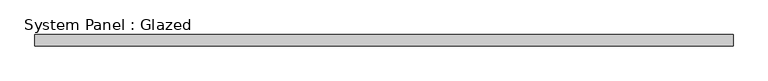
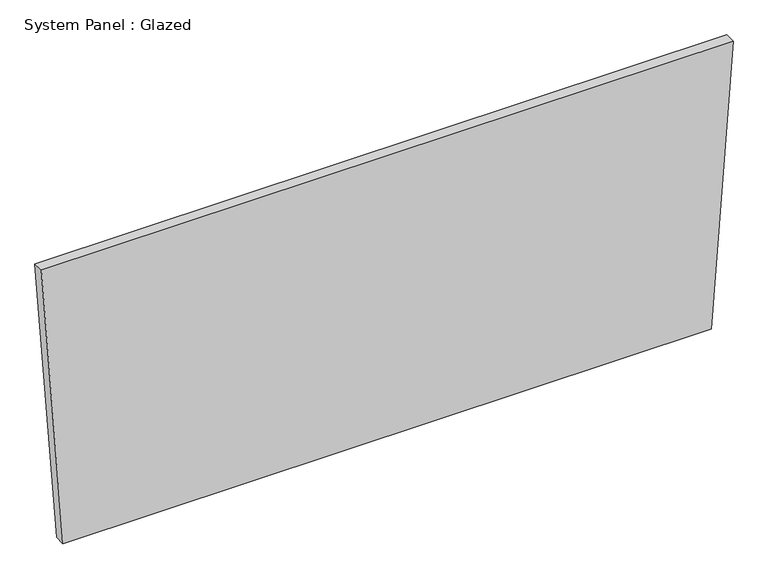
"""IFC4 building model written with IfcOpenShell, lengths in millimetres: plate geometry, System Panel : Glazed."""

from ifc_helpers import new_model, si_unit, frame, origin, place, context, project, spatial, polyline, outline, extrude, source, transform, mapped, element, save


def system_panel_glazed_bf9ad2f0(model_context):
    return source(origin(), model_context, "Body", "SweptSolid", [
        extrude(outline(polyline([(0.0006173, -744.9172912), (0.0, 744.9172942), (682.4582085, 794.6455997), (682.4588669, -794.6455997), (0.0006173, -744.9172912)])), frame((0.0, 19.05, 0.0), z_axis=(0.0, 1.0, 0.0), x_axis=(0.0, 0.0, 1.0)), (0.0, 0.0, 1.0), 25.4),
    ])


if __name__ == "__main__":
    model = new_model("IFC4")
    model_context = context("Model", 3, world=origin())
    ifc_project = project(units=[si_unit("LENGTHUNIT", "METRE", prefix="MILLI")], contexts=[model_context])
    site = spatial("IfcSite", under=ifc_project)
    building = spatial("IfcBuilding", under=site)
    placement = place(None, origin())
    system_panel_glazed_shape = system_panel_glazed_bf9ad2f0(model_context)
    element("IfcPlate", 1, ObjectType="System Panel : Glazed", at=placement, inside=building, context=model_context, shape_type="MappedRepresentation", body=[
        mapped(system_panel_glazed_shape, transform((0.0, 0.0, 0.0), x_axis=(1.0, 0.0, 0.0), y_axis=(0.0, 1.0, 0.0), z_axis=(0.0, 0.0, 1.0))),
    ])
    save(model, "model.ifc")
